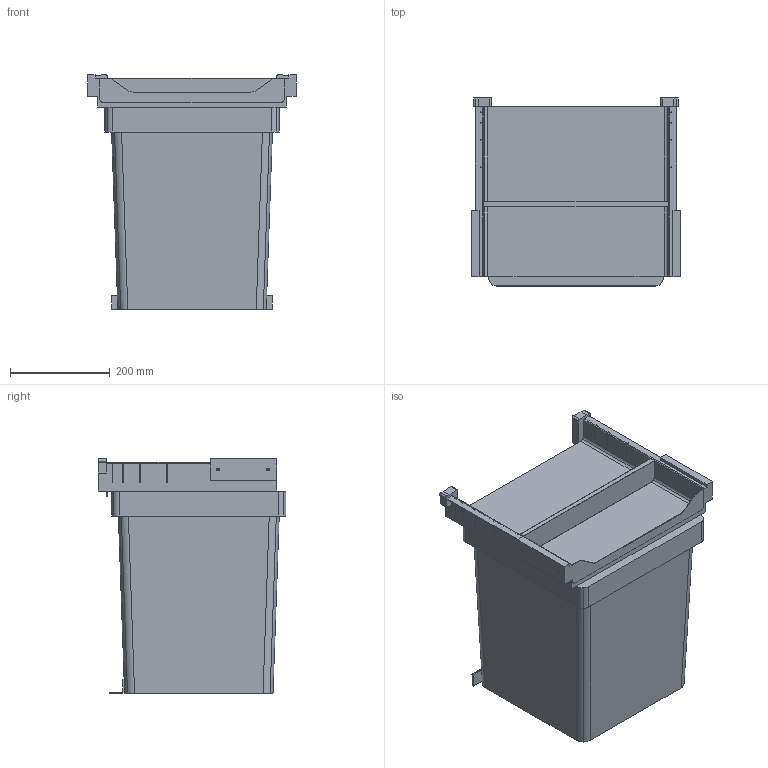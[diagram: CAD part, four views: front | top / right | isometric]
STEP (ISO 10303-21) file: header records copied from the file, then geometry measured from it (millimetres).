
FILE_DESCRIPTION(('STEP AP242'),'1');
FILE_NAME('OPO_53.433.62_volu_3d.stp','2025-11-08T20:31:41',(' '),(' '),'Spatial InterOp 3D',' ',' ');
FILE_SCHEMA(('AP242_MANAGED_MODEL_BASED_3D_ENGINEERING_MIM_LF {1 0 10303 442 1 1 4}'));
Length unit declared in the file: millimetre
Products named in the file (1): 1
Bounding box: 418 x 376.09 x 469.99 mm (x, y, z)
Volume: 41618718.8 mm3; surface area: 1205944.5 mm2
Topology: 3 solids, 3 shells, 234 faces, 677 edges, 436 vertices
Faces by surface type: plane 139, cylinder 87, cone 8
Entity records: 9543 total; most frequent: CARTESIAN_POINT 1342, ORIENTED_EDGE 1338, DIRECTION 1317, EDGE_CURVE 669, LINE 495, VECTOR 495, VERTEX_POINT 436, AXIS2_PLACEMENT_3D 411
